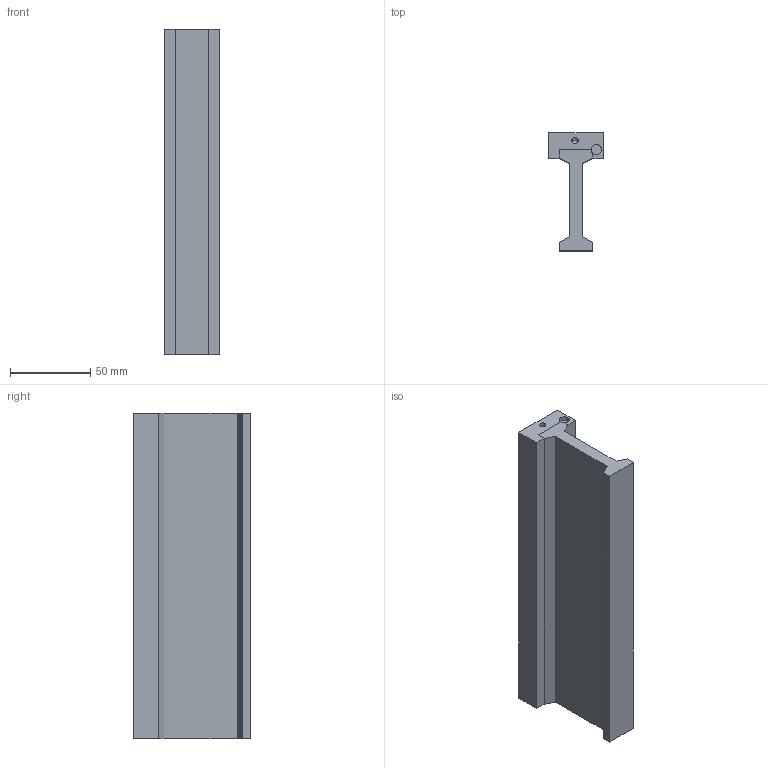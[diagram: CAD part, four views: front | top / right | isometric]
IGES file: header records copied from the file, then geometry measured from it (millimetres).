
Global section: file name: No Iges File Name specified; native system: AutoDesk Inventor R11.0; preprocessor: AutoDesk Inventor Iges Exporter R11.0; author: No Author specified; organization: No Organization specified; date: 20080205.101047; units: inch
Bounding box: 34.29 x 73.66 x 203.2 mm (x, y, z)
Volume: 225395.6 mm3; surface area: 50223.1 mm2
Topology: 1 solids, 1 shells, 49 faces, 125 edges, 71 vertices
Faces by surface type: bspline 28, plane 19, revolution 2
